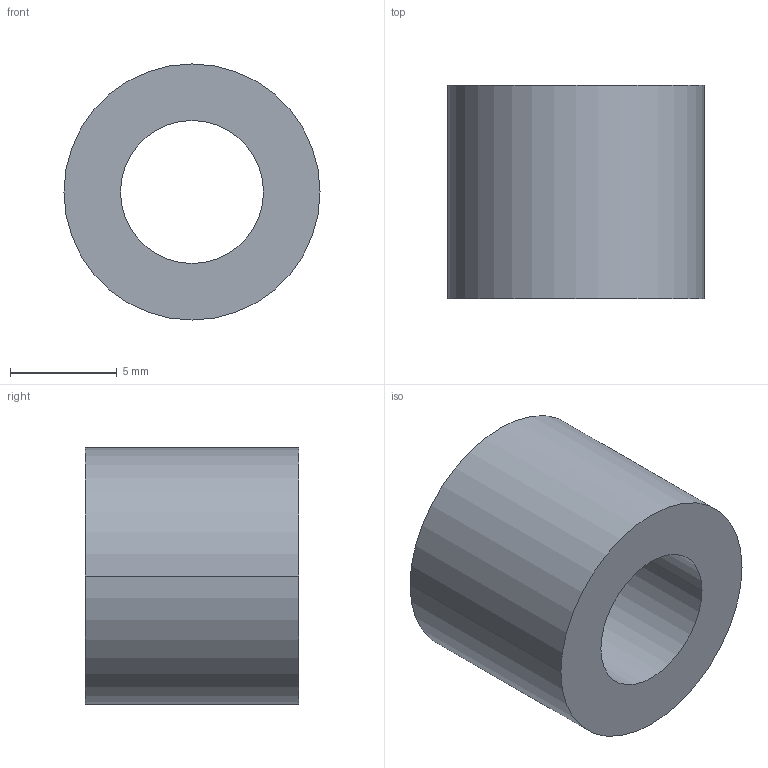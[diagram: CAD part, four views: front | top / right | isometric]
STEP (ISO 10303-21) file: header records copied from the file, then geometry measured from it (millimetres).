
FILE_DESCRIPTION (( 'STEP AP203' ), '1' );
FILE_NAME ('30800.WPP12D6.7.step', '2019-01-23T22:26:02', ( '' ), ( '' ), 'SwSTEP 2.0', 'SolidWorks 2017', '' );
FILE_SCHEMA (( 'CONFIG_CONTROL_DESIGN' ));
Length unit declared in the file: millimetre
Products named in the file (1): 30800.WPP12D6.7
Bounding box: 12 x 10 x 12 mm (x, y, z)
Volume: 767.2 mm3; surface area: 730.6 mm2
Topology: 1 solids, 1 shells, 8 faces, 16 edges, 10 vertices
Faces by surface type: cylinder 4, torus 2, plane 2
Entity records: 297 total; most frequent: DIRECTION 46, CARTESIAN_POINT 35, ORIENTED_EDGE 32, AXIS2_PLACEMENT_3D 21, EDGE_CURVE 16, CIRCLE 12, EDGE_LOOP 10, VERTEX_POINT 10
